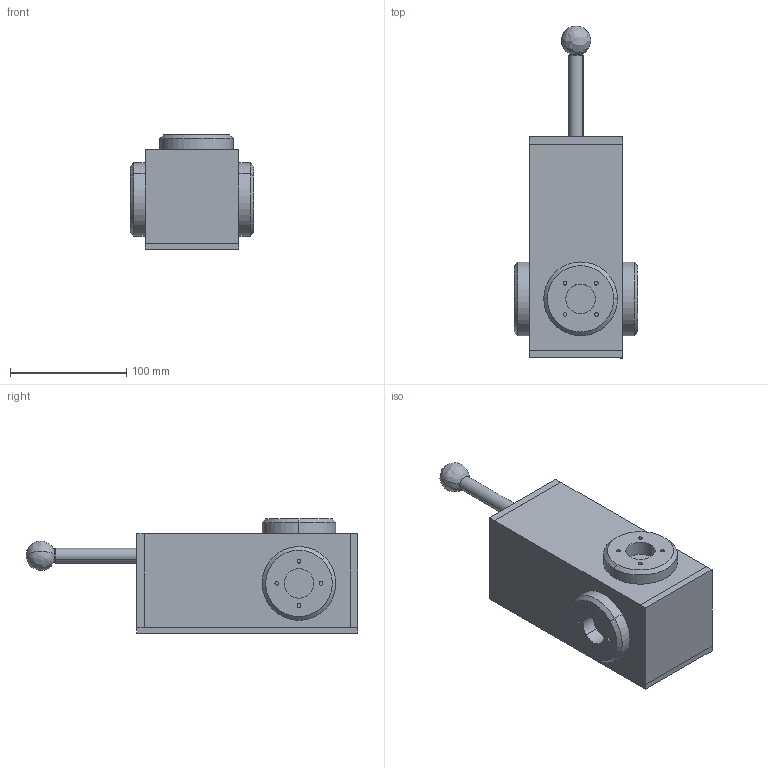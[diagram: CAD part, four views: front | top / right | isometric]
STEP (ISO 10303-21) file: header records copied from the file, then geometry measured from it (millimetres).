
FILE_DESCRIPTION (( 'STEP AP214' ), '1' );
FILE_NAME ('BSU-19-M-LH.STEP', '2016-07-08T15:47:52', ( '' ), ( '' ), 'SwSTEP 2.0', 'SolidWorks 2016', '' );
FILE_SCHEMA (( 'AUTOMOTIVE_DESIGN' ));
Length unit declared in the file: inch
Products named in the file (1): BSU-19-M-LH
Bounding box: 106.36 x 285.9 x 98.42 mm (x, y, z)
Volume: 1436701.4 mm3; surface area: 94204.4 mm2
Topology: 1 solids, 1 shells, 92 faces, 197 edges, 123 vertices
Faces by surface type: plane 41, cylinder 39, cone 8, bspline 4
Entity records: 4192 total; most frequent: CARTESIAN_POINT 2126, DIRECTION 449, ORIENTED_EDGE 386, EDGE_CURVE 193, AXIS2_PLACEMENT_3D 177, VERTEX_POINT 123, EDGE_LOOP 112, LINE 95
